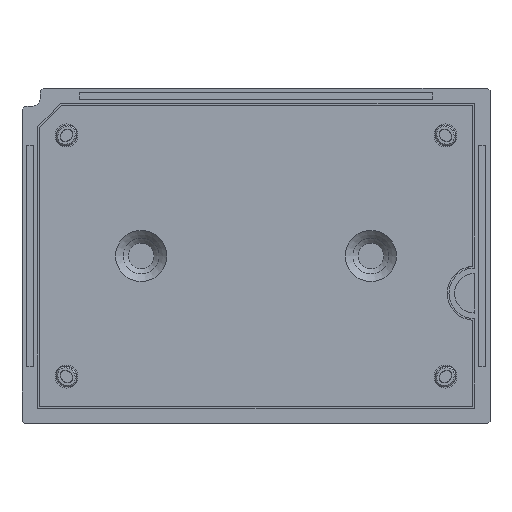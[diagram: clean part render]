
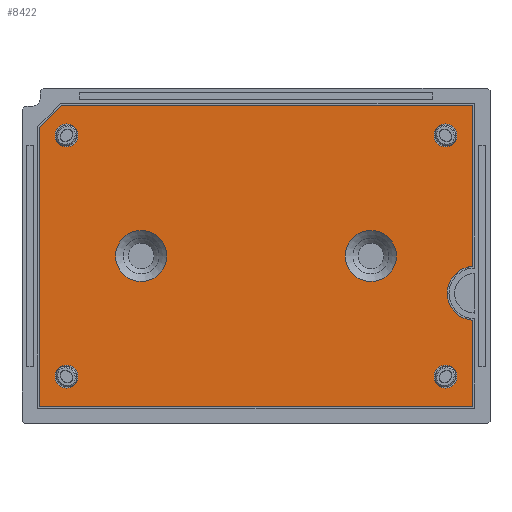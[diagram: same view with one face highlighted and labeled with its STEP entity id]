
A CAD part, top view. The second image highlights one B-rep face of the part: STEP entity #8422.
In plain terms, the highlighted planar face has unit normal (0, 0, 1).
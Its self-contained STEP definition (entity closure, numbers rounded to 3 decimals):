
#1091=LINE('',#19502,#1307);
#1092=LINE('',#19504,#1308);
#1093=LINE('',#19506,#1309);
#1094=LINE('',#19508,#1310);
#1095=LINE('',#19510,#1311);
#1096=LINE('',#19512,#1312);
#1307=VECTOR('',#11299,1000.);
#1308=VECTOR('',#11300,1000.);
#1309=VECTOR('',#11301,1000.);
#1310=VECTOR('',#11302,1000.);
#1311=VECTOR('',#11303,1000.);
#1312=VECTOR('',#11304,1000.);
#1413=PLANE('',#9346);
#3897=ORIENTED_EDGE('',*,*,#5198,.T.);
#3898=ORIENTED_EDGE('',*,*,#5178,.T.);
#3899=ORIENTED_EDGE('',*,*,#5199,.T.);
#3900=ORIENTED_EDGE('',*,*,#5200,.T.);
#3901=ORIENTED_EDGE('',*,*,#5201,.T.);
#3902=ORIENTED_EDGE('',*,*,#5202,.T.);
#3903=ORIENTED_EDGE('',*,*,#5203,.T.);
#3904=ORIENTED_EDGE('',*,*,#5193,.F.);
#3905=ORIENTED_EDGE('',*,*,#5197,.F.);
#3906=ORIENTED_EDGE('',*,*,#5195,.F.);
#3907=ORIENTED_EDGE('',*,*,#5191,.F.);
#3908=ORIENTED_EDGE('',*,*,#5184,.T.);
#3909=ORIENTED_EDGE('',*,*,#5182,.T.);
#5178=EDGE_CURVE('',#5937,#5938,#6517,.T.);
#5182=EDGE_CURVE('',#5941,#5941,#6519,.T.);
#5184=EDGE_CURVE('',#5943,#5943,#6521,.T.);
#5191=EDGE_CURVE('',#5950,#5950,#6528,.T.);
#5193=EDGE_CURVE('',#5952,#5952,#6530,.T.);
#5195=EDGE_CURVE('',#5954,#5954,#6532,.T.);
#5197=EDGE_CURVE('',#5956,#5956,#6534,.T.);
#5198=EDGE_CURVE('',#5957,#5937,#1091,.T.);
#5199=EDGE_CURVE('',#5938,#5958,#1092,.T.);
#5200=EDGE_CURVE('',#5958,#5959,#1093,.T.);
#5201=EDGE_CURVE('',#5959,#5960,#1094,.T.);
#5202=EDGE_CURVE('',#5960,#5961,#1095,.T.);
#5203=EDGE_CURVE('',#5961,#5957,#1096,.T.);
#5937=VERTEX_POINT('',#19454);
#5938=VERTEX_POINT('',#19455);
#5941=VERTEX_POINT('',#19463);
#5943=VERTEX_POINT('',#19468);
#5950=VERTEX_POINT('',#19485);
#5952=VERTEX_POINT('',#19490);
#5954=VERTEX_POINT('',#19495);
#5956=VERTEX_POINT('',#19500);
#5957=VERTEX_POINT('',#19503);
#5958=VERTEX_POINT('',#19505);
#5959=VERTEX_POINT('',#19507);
#5960=VERTEX_POINT('',#19509);
#5961=VERTEX_POINT('',#19511);
#6517=CIRCLE('',#9320,4.7);
#6519=CIRCLE('',#9323,4.45);
#6521=CIRCLE('',#9326,4.45);
#6528=CIRCLE('',#9336,2.);
#6530=CIRCLE('',#9339,2.);
#6532=CIRCLE('',#9342,2.);
#6534=CIRCLE('',#9345,2.);
#7137=EDGE_LOOP('',(#3897,#3898,#3899,#3900,#3901,#3902,#3903));
#7138=EDGE_LOOP('',(#3904));
#7139=EDGE_LOOP('',(#3905));
#7140=EDGE_LOOP('',(#3906));
#7141=EDGE_LOOP('',(#3907));
#7142=EDGE_LOOP('',(#3908));
#7143=EDGE_LOOP('',(#3909));
#7763=FACE_BOUND('',#7137,.T.);
#7764=FACE_BOUND('',#7138,.T.);
#7765=FACE_BOUND('',#7139,.T.);
#7766=FACE_BOUND('',#7140,.T.);
#7767=FACE_BOUND('',#7141,.T.);
#7768=FACE_BOUND('',#7142,.T.);
#7769=FACE_BOUND('',#7143,.T.);
#8422=ADVANCED_FACE('',(#7763,#7764,#7765,#7766,#7767,#7768,#7769),#1413,
 .F.);
#9320=AXIS2_PLACEMENT_3D('',#19453,#11243,#11244);
#9323=AXIS2_PLACEMENT_3D('',#19462,#11251,#11252);
#9326=AXIS2_PLACEMENT_3D('',#19467,#11257,#11258);
#9336=AXIS2_PLACEMENT_3D('',#19484,#11277,#11278);
#9339=AXIS2_PLACEMENT_3D('',#19489,#11283,#11284);
#9342=AXIS2_PLACEMENT_3D('',#19494,#11289,#11290);
#9345=AXIS2_PLACEMENT_3D('',#19499,#11295,#11296);
#9346=AXIS2_PLACEMENT_3D('',#19501,#11297,#11298);
#11243=DIRECTION('',(0.,0.,-1.));
#11244=DIRECTION('',(-1.,0.,0.));
#11251=DIRECTION('',(0.,0.,-1.));
#11252=DIRECTION('',(-1.,0.,0.));
#11257=DIRECTION('',(0.,0.,-1.));
#11258=DIRECTION('',(-1.,0.,0.));
#11277=DIRECTION('',(0.,0.,1.));
#11278=DIRECTION('',(1.,0.,0.));
#11283=DIRECTION('',(0.,0.,1.));
#11284=DIRECTION('',(1.,0.,0.));
#11289=DIRECTION('',(0.,0.,1.));
#11290=DIRECTION('',(1.,0.,0.));
#11295=DIRECTION('',(0.,0.,1.));
#11296=DIRECTION('',(1.,0.,0.));
#11297=DIRECTION('',(0.,0.,-1.));
#11298=DIRECTION('',(0.,-1.,0.));
#11299=DIRECTION('',(0.,1.,0.));
#11300=DIRECTION('',(0.,1.,0.));
#11301=DIRECTION('',(-1.,0.,0.));
#11302=DIRECTION('',(-0.707,-0.707,0.));
#11303=DIRECTION('',(0.,-1.,0.));
#11304=DIRECTION('',(1.,0.,0.));
#19453=CARTESIAN_POINT('',(38.,-6.5,2.));
#19454=CARTESIAN_POINT('',(37.75,-11.193,2.));
#19455=CARTESIAN_POINT('',(37.75,-1.807,2.));
#19462=CARTESIAN_POINT('',(20.,0.,2.));
#19463=CARTESIAN_POINT('',(15.55,0.,2.));
#19467=CARTESIAN_POINT('',(-20.,0.,2.));
#19468=CARTESIAN_POINT('',(-24.45,0.,2.));
#19484=CARTESIAN_POINT('',(-33.,-21.,2.));
#19485=CARTESIAN_POINT('',(-31.,-21.,2.));
#19489=CARTESIAN_POINT('',(33.,-21.,2.));
#19490=CARTESIAN_POINT('',(35.,-21.,2.));
#19494=CARTESIAN_POINT('',(33.,21.,2.));
#19495=CARTESIAN_POINT('',(35.,21.,2.));
#19499=CARTESIAN_POINT('',(-33.,21.,2.));
#19500=CARTESIAN_POINT('',(-31.,21.,2.));
#19501=CARTESIAN_POINT('',(-37.75,-26.25,2.));
#19502=CARTESIAN_POINT('',(37.75,-26.25,2.));
#19503=CARTESIAN_POINT('',(37.75,-26.25,2.));
#19504=CARTESIAN_POINT('',(37.75,-26.25,2.));
#19505=CARTESIAN_POINT('',(37.75,26.25,2.));
#19506=CARTESIAN_POINT('',(-33.85,26.25,2.));
#19507=CARTESIAN_POINT('',(-33.85,26.25,2.));
#19508=CARTESIAN_POINT('',(-37.75,22.35,2.));
#19509=CARTESIAN_POINT('',(-37.75,22.35,2.));
#19510=CARTESIAN_POINT('',(-37.75,-26.25,2.));
#19511=CARTESIAN_POINT('',(-37.75,-26.25,2.));
#19512=CARTESIAN_POINT('',(-37.75,-26.25,2.));
